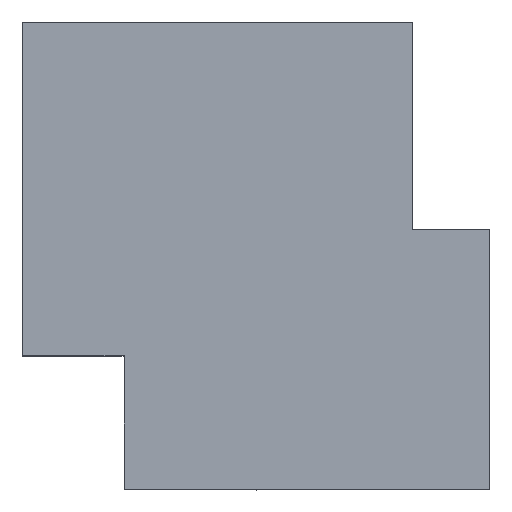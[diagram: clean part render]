
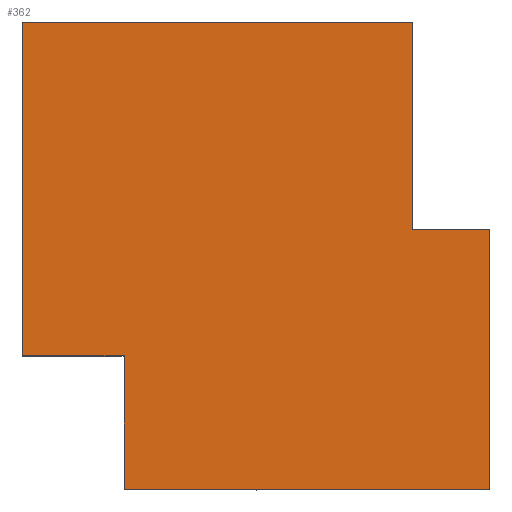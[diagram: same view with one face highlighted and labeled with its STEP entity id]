
A CAD part, top view. The second image highlights one B-rep face of the part: STEP entity #362.
In plain terms, the highlighted planar face has unit normal (0, 0, 1).
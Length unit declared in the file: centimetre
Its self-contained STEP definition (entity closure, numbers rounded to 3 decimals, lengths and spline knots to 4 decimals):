
#24 = LINE ( 'NONE', #758, #230 ) ;
#37 = CARTESIAN_POINT ( 'NONE',  ( 1000., 1000., 1000. ) ) ;
#44 = DIRECTION ( 'NONE',  ( 0., -1., 0. ) ) ;
#46 = ORIENTED_EDGE ( 'NONE', *, *, #577, .T. ) ;
#47 = VECTOR ( 'NONE', #44, 100. ) ;
#55 = DIRECTION ( 'NONE',  ( -1., 0., 0. ) ) ;
#59 = DIRECTION ( 'NONE',  ( 1., 0., 0. ) ) ;
#99 = CARTESIAN_POINT ( 'NONE',  ( 835.2153, 1000., 1000. ) ) ;
#103 = VERTEX_POINT ( 'NONE', #425 ) ;
#104 = LINE ( 'NONE', #593, #47 ) ;
#106 = VERTEX_POINT ( 'NONE', #665 ) ;
#115 = EDGE_CURVE ( 'NONE', #540, #694, #605, .T. ) ;
#191 = DIRECTION ( 'NONE',  ( 0., 0., 1. ) ) ;
#206 = LINE ( 'NONE', #691, #786 ) ;
#211 = VECTOR ( 'NONE', #239, 100. ) ;
#230 = VECTOR ( 'NONE', #463, 100. ) ;
#239 = DIRECTION ( 'NONE',  ( 0., 1., 0. ) ) ;
#243 = CARTESIAN_POINT ( 'NONE',  ( 217.9186, 0., 1000. ) ) ;
#261 = ORIENTED_EDGE ( 'NONE', *, *, #733, .F. ) ;
#279 = EDGE_CURVE ( 'NONE', #692, #535, #585, .T. ) ;
#290 = CARTESIAN_POINT ( 'NONE',  ( 0., 1000., 1000. ) ) ;
#302 = CARTESIAN_POINT ( 'NONE',  ( 1000., 0., 1000. ) ) ;
#310 = CARTESIAN_POINT ( 'NONE',  ( 0., 1000., 1000. ) ) ;
#313 = VECTOR ( 'NONE', #59, 100. ) ;
#339 = VERTEX_POINT ( 'NONE', #518 ) ;
#344 = ORIENTED_EDGE ( 'NONE', *, *, #434, .T. ) ;
#350 = ORIENTED_EDGE ( 'NONE', *, *, #757, .T. ) ;
#353 = ORIENTED_EDGE ( 'NONE', *, *, #115, .T. ) ;
#357 = CARTESIAN_POINT ( 'NONE',  ( 1000., 556.5704, 1000. ) ) ;
#362 = ADVANCED_FACE ( 'NONE', ( #511 ), #513, .T. ) ;
#386 = VERTEX_POINT ( 'NONE', #565 ) ;
#414 = VECTOR ( 'NONE', #55, 100. ) ;
#425 = CARTESIAN_POINT ( 'NONE',  ( 217.9186, 286.194, 1000. ) ) ;
#434 = EDGE_CURVE ( 'NONE', #339, #540, #24, .T. ) ;
#439 = VECTOR ( 'NONE', #675, 100. ) ;
#461 = DIRECTION ( 'NONE',  ( -1., 0., 0. ) ) ;
#463 = DIRECTION ( 'NONE',  ( 0., 1., 0. ) ) ;
#489 = LINE ( 'NONE', #612, #313 ) ;
#509 = ORIENTED_EDGE ( 'NONE', *, *, #279, .T. ) ;
#511 = FACE_OUTER_BOUND ( 'NONE', #602, .T. ) ;
#513 = PLANE ( 'NONE',  #748 ) ;
#518 = CARTESIAN_POINT ( 'NONE',  ( 835.2153, 556.5704, 1000. ) ) ;
#535 = VERTEX_POINT ( 'NONE', #357 ) ;
#536 = DIRECTION ( 'NONE',  ( 0., 1., 0. ) ) ;
#540 = VERTEX_POINT ( 'NONE', #99 ) ;
#557 = ORIENTED_EDGE ( 'NONE', *, *, #608, .F. ) ;
#565 = CARTESIAN_POINT ( 'NONE',  ( 0., 286.194, 1000. ) ) ;
#566 = ORIENTED_EDGE ( 'NONE', *, *, #775, .F. ) ;
#577 = EDGE_CURVE ( 'NONE', #694, #386, #104, .T. ) ;
#585 = LINE ( 'NONE', #37, #598 ) ;
#593 = CARTESIAN_POINT ( 'NONE',  ( 0., 1000., 1000. ) ) ;
#598 = VECTOR ( 'NONE', #536, 100. ) ;
#602 = EDGE_LOOP ( 'NONE', ( #566, #261, #350, #509, #557, #344, #353, #46 ) ) ;
#605 = LINE ( 'NONE', #290, #414 ) ;
#608 = EDGE_CURVE ( 'NONE', #339, #535, #736, .T. ) ;
#612 = CARTESIAN_POINT ( 'NONE',  ( 0., 0., 1000. ) ) ;
#665 = CARTESIAN_POINT ( 'NONE',  ( 217.9186, 0., 1000. ) ) ;
#675 = DIRECTION ( 'NONE',  ( 1., 0., 0. ) ) ;
#682 = CARTESIAN_POINT ( 'NONE',  ( 0., 0., 1000. ) ) ;
#691 = CARTESIAN_POINT ( 'NONE',  ( 0., 286.194, 1000. ) ) ;
#692 = VERTEX_POINT ( 'NONE', #302 ) ;
#694 = VERTEX_POINT ( 'NONE', #310 ) ;
#733 = EDGE_CURVE ( 'NONE', #106, #103, #746, .T. ) ;
#736 = LINE ( 'NONE', #796, #439 ) ;
#746 = LINE ( 'NONE', #243, #211 ) ;
#748 = AXIS2_PLACEMENT_3D ( 'NONE', #682, #191, #753 ) ;
#753 = DIRECTION ( 'NONE',  ( 1., 0., 0. ) ) ;
#757 = EDGE_CURVE ( 'NONE', #106, #692, #489, .T. ) ;
#758 = CARTESIAN_POINT ( 'NONE',  ( 835.2153, 556.5704, 1000. ) ) ;
#775 = EDGE_CURVE ( 'NONE', #103, #386, #206, .T. ) ;
#786 = VECTOR ( 'NONE', #461, 100. ) ;
#796 = CARTESIAN_POINT ( 'NONE',  ( 1000., 556.5704, 1000. ) ) ;
